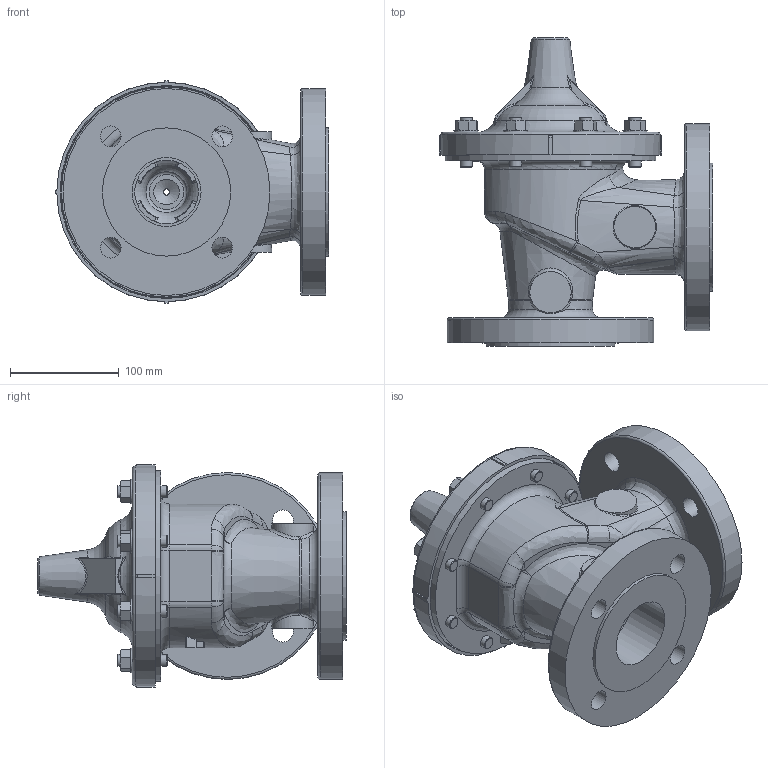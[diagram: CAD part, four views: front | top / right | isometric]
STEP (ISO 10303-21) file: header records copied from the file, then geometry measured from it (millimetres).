
FILE_DESCRIPTION(/* description */ (''),/* implementation_level */ '2;1');
FILE_NAME(/* name */ 'G:\Doc_Liberes\SymbolesCAD\Modeles_3D\FichierSTP\VanneDeBase\AE065-16RF.stp',/* time_stamp */ '2023-08-18T08:55:19+02:00',/* author */ ('theo'),/* organization */ (''),/* preprocessor_version */ 'ST-DEVELOPER v18.1',/* originating_system */ 'Autodesk Inventor 2022',/* authorisation */ '');
FILE_SCHEMA (('AUTOMOTIVE_DESIGN { 1 0 10303 214 3 1 1 }'));
Length unit declared in the file: millimetre
Products named in the file (1): AE065pn16_Simplifier_1
Bounding box: 251.9 x 283.82 x 205 mm (x, y, z)
Volume: 2542581.9 mm3; surface area: 453114.1 mm2
Topology: 1 solids, 1 shells, 681 faces, 1685 edges, 1046 vertices
Faces by surface type: plane 210, cone 194, bspline 140, cylinder 95, torus 36, sphere 6
Full cylindrical faces by diameter (mm): 11.113 x24, 18.63 x1, 19 x8, 22.225 x8, 23.44 x1, 38 x2, 63.5 x2, 73.2 x1, 92.3 x1, 92.33 x1, 118 x2, 190.5 x2, 193.52 x1, 196 x1, 202 x1
Entity records: 26747 total; most frequent: CARTESIAN_POINT 11906, ORIENTED_EDGE 3362, DIRECTION 2787, EDGE_CURVE 1681, AXIS2_PLACEMENT_3D 1241, VERTEX_POINT 1046, EDGE_LOOP 761, CIRCLE 683
